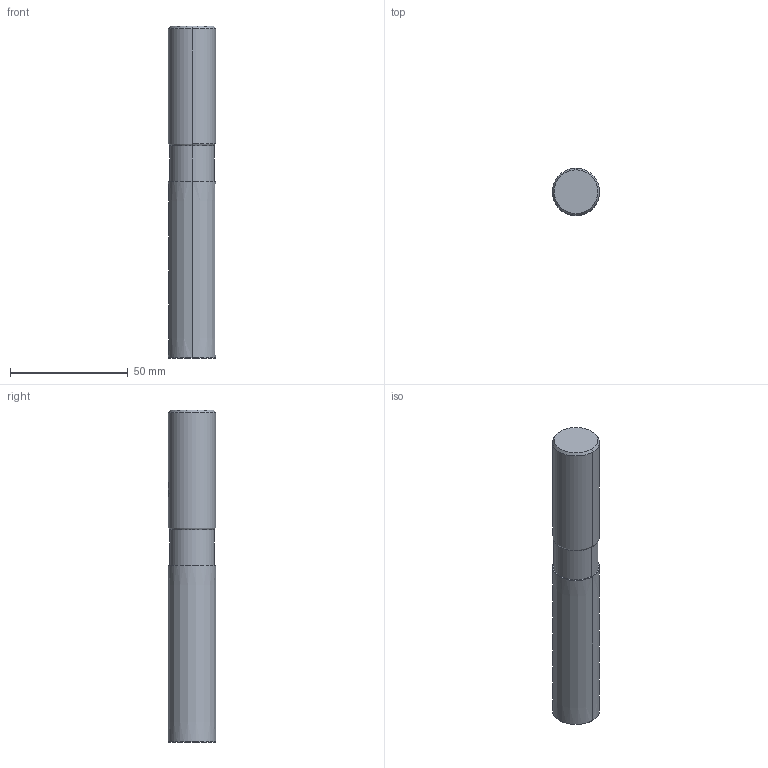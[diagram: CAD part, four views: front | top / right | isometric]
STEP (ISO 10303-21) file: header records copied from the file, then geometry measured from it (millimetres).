
FILE_DESCRIPTION(('no description'),'unknown implementation level');
FILE_NAME('solidBYjWZgPVfzRb26HOeVKhxv1a9Qw_1.STP',' ',('CIMSOURCE GmbH'),('CADClick - KiM GmbH - www.kimweb.de'),'unknown preprocess','ACIS','unknown authorization');
FILE_SCHEMA(('automotive_design'));
Length unit declared in the file: millimetre
Products named in the file (2): NOCUT; CUT
Bounding box: 20 x 20 x 141 mm (x, y, z)
Volume: 43790.4 mm3; surface area: 14656.4 mm2
Topology: 2 solids, 2 shells, 43 faces, 97 edges, 60 vertices
Faces by surface type: cone 16, cylinder 16, plane 11
Entity records: 2748 total; most frequent: CARTESIAN_POINT 586, DIRECTION 221, STYLED_ITEM 202, PRESENTATION_STYLE_ASSIGNMENT 202, COLOUR_RGB 202, ORIENTED_EDGE 194, EDGE_CURVE 97, CURVE_STYLE 97
